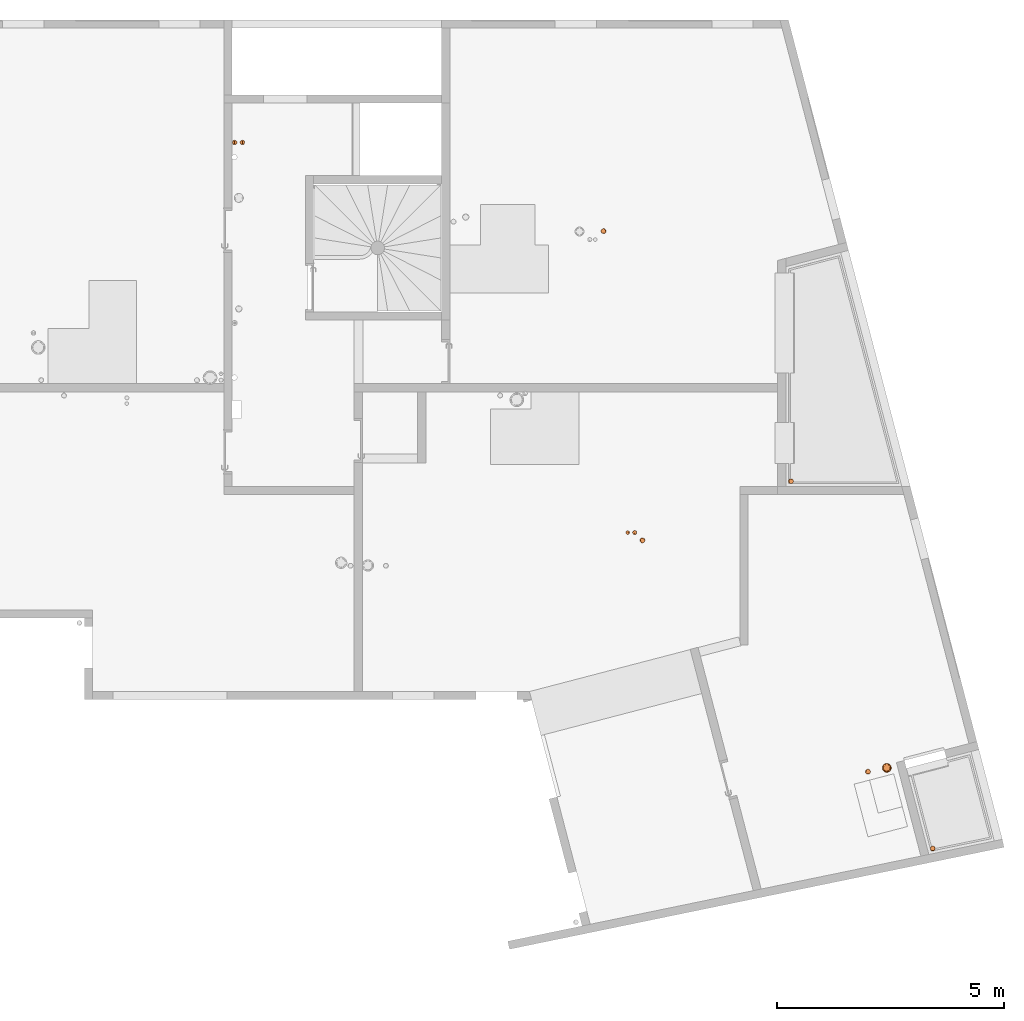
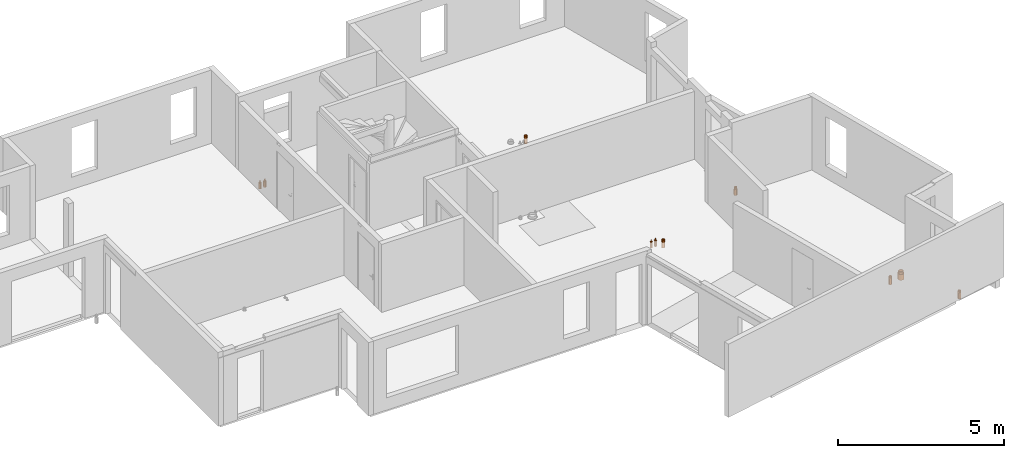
# One storey, part 29 of 30: 10 proxies.
"""IFC2X3 building model written with IfcOpenShell, lengths in centimetres."""

import ifcopenshell
import ifcopenshell.guid

model = None  # the IFC model being written
_history = None  # IfcOwnerHistory: only IFC2X3 demands one
_inside = {}  # id of a spatial element -> (the spatial element, [elements in it])
_under = {}  # id of a project, library or spatial element -> (it, [spatial elements below it])
_declared = {}  # id of a project -> (the project, [libraries it declares])
_typed = {}  # id of a type object -> (the type object, [elements of that type])
_made_of = {}  # id of a material, layer set ... -> (it, [elements and type objects made of it])


def new_model(schema):
    """Start an empty IFC model of exactly this schema.

    Asked for "IFC4X3", IfcOpenShell would pick the latest addendum, in which some entities
    have other attributes; the version numbers below select the first issue.
    IFC2X3 requires an IfcOwnerHistory on every rooted entity: one is made here for all.
    """
    global model, _history
    if schema == "IFC4X3":
        model = ifcopenshell.file(schema_version=(4, 3, 0, 0))
    else:
        model = ifcopenshell.file(schema=schema)
    _inside.clear()
    _under.clear()
    _declared.clear()
    _typed.clear()
    _made_of.clear()
    _history = None
    if model.schema == "IFC2X3":
        org = make("IfcOrganization", Name="unknown")
        user = make(
            "IfcPersonAndOrganization",
            ThePerson=make("IfcPerson", FamilyName="unknown"),
            TheOrganization=org,
        )
        app = make(
            "IfcApplication",
            ApplicationDeveloper=org,
            Version="unknown",
            ApplicationFullName="unknown",
            ApplicationIdentifier="unknown",
        )
        _history = make(
            "IfcOwnerHistory",
            OwningUser=user,
            OwningApplication=app,
            ChangeAction="ADDED",
            CreationDate=0,
        )
    return model


def make(cls, **values):
    """One entity of the class cls with the attributes given. An attribute that is None is left unset."""
    return model.create_entity(
        cls, **{name: value for name, value in values.items() if value is not None}
    )


def entity(cls, *values):
    """Any entity or typed value of the class cls, its attributes in the order of the schema. None: left unset."""
    e = model.create_entity(cls)
    for i, value in enumerate(values):
        if value is not None:
            e[i] = value
    return e


def rooted(cls, **values):
    """An entity with a GlobalId (a new one), such as an element, a storey or a relation."""
    return make(cls, GlobalId=ifcopenshell.guid.new(), OwnerHistory=_history, **values)


def si_unit(unit_type, name, prefix=None):
    """IfcSIUnit, for example si_unit("LENGTHUNIT", "METRE", prefix="MILLI")."""
    return make("IfcSIUnit", UnitType=unit_type, Prefix=prefix, Name=name)


def converted_unit(unit_type, name, factor, base, dimensions=None, offset=None):
    """IfcConversionBasedUnit, such as the inch: factor (a typed value) times the base unit."""
    return make(
        "IfcConversionBasedUnit"
        if offset is None
        else "IfcConversionBasedUnitWithOffset",
        ConversionOffset=offset,
        Dimensions=None
        if dimensions is None
        else entity("IfcDimensionalExponents", *dimensions),
        UnitType=unit_type,
        Name=name,
        ConversionFactor=make(
            "IfcMeasureWithUnit", ValueComponent=factor, UnitComponent=base
        ),
    )


def derived_unit(unit_type, elements):
    """IfcDerivedUnit: a product of units, each with its exponent."""
    return make(
        "IfcDerivedUnit",
        Elements=[
            make("IfcDerivedUnitElement", Unit=unit, Exponent=power)
            for unit, power in elements
        ],
        UnitType=unit_type,
    )


def assignment(units):
    """IfcUnitAssignment: the units of a project."""
    return None if units is None else make("IfcUnitAssignment", Units=units)


def point(xyz):
    """IfcCartesianPoint."""
    return None if xyz is None else make("IfcCartesianPoint", Coordinates=xyz)


def direction(xyz):
    """IfcDirection."""
    return None if xyz is None else make("IfcDirection", DirectionRatios=xyz)


def frame(location, z_axis=None, x_axis=None):
    """IfcAxis2Placement3D, a coordinate frame: its origin and axes. An axis left out is left unset."""
    return make(
        "IfcAxis2Placement3D",
        Location=point(location),
        Axis=direction(z_axis),
        RefDirection=direction(x_axis),
    )


def frame_2d(location, x_axis=None):
    """IfcAxis2Placement2D, a coordinate frame in the plane: its origin and x axis."""
    return make(
        "IfcAxis2Placement2D", Location=point(location), RefDirection=direction(x_axis)
    )


def origin():
    """The frame at (0, 0, 0) with its axes left unset."""
    return frame((0.0, 0.0, 0.0))


def place(relative_to, where):
    """IfcLocalPlacement: puts the frame where relative to a parent placement (None: the world)."""
    return make(
        "IfcLocalPlacement", PlacementRelTo=relative_to, RelativePlacement=where
    )


def context(
    kind, dimensions, precision=None, world=None, true_north=None, identifier=None
):
    """IfcGeometricRepresentationContext, for example the 3D "Model" context."""
    return make(
        "IfcGeometricRepresentationContext",
        ContextIdentifier=identifier,
        ContextType=kind,
        CoordinateSpaceDimension=dimensions,
        Precision=precision,
        WorldCoordinateSystem=world,
        TrueNorth=true_north,
    )


def subcontext(parent, identifier, kind, view, scale=None):
    """IfcGeometricRepresentationSubContext, for example "Body" below "Model"."""
    return make(
        "IfcGeometricRepresentationSubContext",
        ContextIdentifier=identifier,
        ContextType=kind,
        ParentContext=parent,
        TargetScale=scale,
        TargetView=view,
    )


def project(units=None, contexts=None):
    """IfcProject with its units and contexts."""
    return rooted(
        "IfcProject",
        Name="project",
        RepresentationContexts=contexts,
        UnitsInContext=assignment(units),
    )


def spatial(cls, under=None, at=None, **own):
    """A site, building, storey or space (cls), placed at a placement, below another one or the project."""
    s = rooted(cls, ObjectPlacement=at, **own)
    if under is not None:
        _under.setdefault(under.id(), (under, []))[1].append(s)
    return s


def profile(cls, at=None, kind="AREA", **sizes):
    """A parametric profile (cls). Its sizes go by their IFC names, for example OverallWidth=200.0."""
    return make(cls, ProfileType=kind, Position=at, **sizes)


def circle(**sizes):
    """IfcCircleProfileDef."""
    return profile("IfcCircleProfileDef", **sizes)


def hollow_circle(**sizes):
    """IfcCircleHollowProfileDef."""
    return profile("IfcCircleHollowProfileDef", **sizes)


def extrude(swept, where, along, depth):
    """IfcExtrudedAreaSolid: the profile swept, set in the frame where, extruded along a direction by depth."""
    return make(
        "IfcExtrudedAreaSolid",
        SweptArea=swept,
        Position=where,
        ExtrudedDirection=direction(along),
        Depth=depth,
    )


def shape(context_of_items, identifier, shape_type, items):
    """IfcShapeRepresentation: the items that make up one representation, for example the "Body"."""
    return make(
        "IfcShapeRepresentation",
        ContextOfItems=context_of_items,
        RepresentationIdentifier=identifier,
        RepresentationType=shape_type,
        Items=items,
    )


def source(mapping_origin, context_of_items, identifier, shape_type, items):
    """IfcRepresentationMap: a shape defined once, which mapped items show again and again."""
    return make(
        "IfcRepresentationMap",
        MappingOrigin=mapping_origin,
        MappedRepresentation=shape(context_of_items, identifier, shape_type, items),
    )


def transform(
    local_origin,
    x_axis=None,
    y_axis=None,
    z_axis=None,
    scale=None,
    scale2=None,
    scale3=None,
    uniform=True,
):
    """IfcCartesianTransformationOperator3D, or its non-uniform kind. x_axis, y_axis, z_axis: its Axis1, 2, 3."""
    if uniform:
        return make(
            "IfcCartesianTransformationOperator3D",
            Axis1=direction(x_axis),
            Axis2=direction(y_axis),
            LocalOrigin=point(local_origin),
            Scale=scale,
            Axis3=direction(z_axis),
        )
    return make(
        "IfcCartesianTransformationOperator3DnonUniform",
        Axis1=direction(x_axis),
        Axis2=direction(y_axis),
        LocalOrigin=point(local_origin),
        Scale=scale,
        Axis3=direction(z_axis),
        Scale2=scale2,
        Scale3=scale3,
    )


def mapped(mapping_source, mapping_target):
    """IfcMappedItem: shows the shape of a source again, moved by a transform."""
    return make(
        "IfcMappedItem", MappingSource=mapping_source, MappingTarget=mapping_target
    )


def material(Name=None, Category=None):
    """IfcMaterial."""
    return make("IfcMaterial", Name=Name, Category=Category)


def made_of(thing, what):
    """Note that an element or type object is made of a material, layer set ...; save() writes the relation."""
    if what is not None:
        _made_of.setdefault(what.id(), (what, []))[1].append(thing)
    return thing


def type_object(cls, material=None, **own):
    """A type object (cls), such as IfcWallType, which elements share."""
    return made_of(rooted(cls, **own), material)


def type_shapes(of_type, sources):
    """Give a type object the sources (RepresentationMaps) that its elements show as mapped items."""
    of_type.RepresentationMaps = sources


def element(
    cls,
    number,
    at=None,
    inside=None,
    cuts=None,
    type_object=None,
    material=None,
    context=None,
    identifier="Body",
    shape_type=None,
    held_by="IfcProductDefinitionShape",
    body=None,
    shapes=None,
    **own,
):
    """One element of the class cls, such as IfcWall. Its Tag is "e" and its number.

    at: its placement. inside: the storey or other place that contains it. cuts: it is an
    opening in that element (IfcRelVoidsElement). A single representation is given by context,
    identifier, shape_type and body (its items); several are given by shapes. held_by: the class
    of the entity that holds the representations. save() writes the other relations.
    """
    e = rooted(cls, Tag="e%d" % number, ObjectPlacement=at, **own)
    if body is not None:
        shapes = [shape(context, identifier, shape_type, body)]
    if shapes is not None:
        e.Representation = make(held_by, Representations=shapes)
    if inside is not None:
        _inside.setdefault(inside.id(), (inside, []))[1].append(e)
    if cuts is not None:
        rooted(
            "IfcRelVoidsElement", RelatingBuildingElement=cuts, RelatedOpeningElement=e
        )
    if type_object is not None:
        _typed.setdefault(type_object.id(), (type_object, []))[1].append(e)
    return made_of(e, material)


def aggregate(whole, parts):
    """IfcRelAggregates: a whole, such as a stair, and the parts it consists of."""
    return rooted("IfcRelAggregates", RelatingObject=whole, RelatedObjects=parts)


def save(model, path):
    """Write the relations noted so far, then the file.

    IfcRelAggregates (storeys below a building ...), IfcRelContainedInSpatialStructure (elements
    in a storey), IfcRelDefinesByType, IfcRelAssociatesMaterial and IfcRelDeclares: one each for
    every whole, place, type object, material and project.
    """
    for whole, parts in _under.values():
        aggregate(whole, parts)
    for where, things in _inside.values():
        rooted(
            "IfcRelContainedInSpatialStructure",
            RelatedElements=things,
            RelatingStructure=where,
        )
    for kind, things in _typed.values():
        rooted("IfcRelDefinesByType", RelatedObjects=things, RelatingType=kind)
    for what, things in _made_of.values():
        rooted("IfcRelAssociatesMaterial", RelatedObjects=things, RelatingMaterial=what)
    for by, libraries in _declared.values():
        rooted("IfcRelDeclares", RelatingContext=by, RelatedDefinitions=libraries)
    model.write(path)


model = new_model("IFC2X3")

# Units and contexts
model_context = context("Model", 3, precision=0.001, world=origin(), true_north=direction((6.12303176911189e-17, 1.0)))
body_context = subcontext(model_context, "Body", "Model", "MODEL_VIEW")
ifc_project = project(units=[si_unit("LENGTHUNIT", "METRE", prefix="CENTI"), si_unit("AREAUNIT", "SQUARE_METRE"), si_unit("VOLUMEUNIT", "CUBIC_METRE"), converted_unit("PLANEANGLEUNIT", "DEGREE", entity("IfcRatioMeasure", 0.0174532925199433), si_unit("PLANEANGLEUNIT", "RADIAN"), dimensions=[0, 0, 0, 0, 0, 0, 0]), si_unit("MASSUNIT", "GRAM", prefix="KILO"), derived_unit("MASSDENSITYUNIT", [(si_unit("MASSUNIT", "GRAM", prefix="KILO"), 1), (si_unit("LENGTHUNIT", "METRE"), -3)]), si_unit("TIMEUNIT", "SECOND"), si_unit("FREQUENCYUNIT", "HERTZ"), si_unit("THERMODYNAMICTEMPERATUREUNIT", "DEGREE_CELSIUS"), derived_unit("THERMALTRANSMITTANCEUNIT", [(si_unit("MASSUNIT", "GRAM", prefix="KILO"), 1), (si_unit("THERMODYNAMICTEMPERATUREUNIT", "KELVIN"), -1), (si_unit("TIMEUNIT", "SECOND"), -3)]), derived_unit("VOLUMETRICFLOWRATEUNIT", [(si_unit("LENGTHUNIT", "METRE"), 3), (si_unit("TIMEUNIT", "SECOND"), -1)]), si_unit("ELECTRICCURRENTUNIT", "AMPERE"), si_unit("ELECTRICVOLTAGEUNIT", "VOLT"), si_unit("POWERUNIT", "WATT"), si_unit("FORCEUNIT", "NEWTON"), si_unit("ILLUMINANCEUNIT", "LUX"), si_unit("LUMINOUSFLUXUNIT", "LUMEN"), si_unit("LUMINOUSINTENSITYUNIT", "CANDELA"), derived_unit("USERDEFINED", [(si_unit("MASSUNIT", "GRAM", prefix="KILO"), -1), (si_unit("LENGTHUNIT", "METRE"), -2), (si_unit("TIMEUNIT", "SECOND"), 3), (si_unit("LUMINOUSFLUXUNIT", "LUMEN"), 1)]), derived_unit("LINEARVELOCITYUNIT", [(si_unit("LENGTHUNIT", "METRE"), 1), (si_unit("TIMEUNIT", "SECOND"), -1)]), si_unit("PRESSUREUNIT", "PASCAL"), derived_unit("USERDEFINED", [(si_unit("LENGTHUNIT", "METRE"), -2), (si_unit("MASSUNIT", "GRAM", prefix="KILO"), 1), (si_unit("TIMEUNIT", "SECOND"), -2)])], contexts=[model_context])

# Site, building, storey
site_placement = place(None, origin())
site = spatial("IfcSite", under=ifc_project, at=site_placement, Name="Default", CompositionType="ELEMENT")
building_placement = place(site_placement, origin())
building = spatial("IfcBuilding", under=site, at=building_placement, Name="CAGE 03", CompositionType="ELEMENT")
storey_placement = place(building_placement, frame((0.0, 0.0, 610.0)))
storey = spatial("IfcBuildingStorey", under=building, at=storey_placement, Name="R+2", CompositionType="ELEMENT", Elevation=610.0)

# Proxies
ifc_material_1 = material(Name="Conduit EU")
building_element_proxy_type_1 = type_object("IfcBuildingElementProxyType", Name="CFO125 P110", PredefinedType="NOTDEFINED", material=ifc_material_1)
shared_shape_1 = source(origin(), body_context, "Body", "SweptSolid", [
    extrude(circle(Radius=5.5, at=frame_2d((0.0, -8.88549515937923e-15), x_axis=(1.0, 0.0))), frame((0.0, 0.0, -21.0)), (0.0, 0.0, 1.0), 21.0),
    extrude(hollow_circle(Radius=5.0, WallThickness=0.25, at=frame_2d((0.0, -8.07772287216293e-15), x_axis=(1.0, 0.0))), frame((0.0, 0.0, -21.0)), (0.0, 0.0, 1.0), 28.5),
])
type_shapes(building_element_proxy_type_1, [shared_shape_1])
proxy_1_placement = place(storey_placement, frame((10846.7782618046, 4828.73323198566, -4.46999646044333e-07)))
element("IfcBuildingElementProxy", 1, at=proxy_1_placement, inside=storey, type_object=building_element_proxy_type_1, material=ifc_material_1, Name="Galette - Résa - PVC1:CFO125 P110", ObjectType="CFO125 P110", context=body_context, shape_type="MappedRepresentation", body=[
    mapped(shared_shape_1, transform((0.0, 0.0, 0.0), scale=1.0)),
])
proxy_2_placement = place(storey_placement, frame((11428.9637022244, 3638.21161603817, -4.46999646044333e-07), z_axis=(0.0, 0.0, 1.0), x_axis=(0.96754998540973, 0.252679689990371, 0.0)))
element("IfcBuildingElementProxy", 2, at=proxy_2_placement, inside=storey, type_object=building_element_proxy_type_1, material=ifc_material_1, Name="Galette - Résa - PVC1:CFO125 P110", ObjectType="CFO125 P110", context=body_context, shape_type="MappedRepresentation", body=[
    mapped(shared_shape_1, transform((0.0, 0.0, 0.0), scale=1.0)),
])
proxy_3_placement = place(storey_placement, frame((10932.3241224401, 4147.61794280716, -4.46999646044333e-07)))
element("IfcBuildingElementProxy", 3, at=proxy_3_placement, inside=storey, type_object=building_element_proxy_type_1, material=ifc_material_1, Name="Galette - Résa - PVC1:CFO125 P110", ObjectType="CFO125 P110", context=body_context, shape_type="MappedRepresentation", body=[
    mapped(shared_shape_1, transform((0.0, 0.0, 0.0), scale=1.0)),
])
ifc_material_2 = material(Name="Conduit EP")
building_element_proxy_type_2 = type_object("IfcBuildingElementProxyType", Name="EP 101", PredefinedType="NOTDEFINED", material=ifc_material_2)
shared_shape_2 = source(origin(), body_context, "Body", "SweptSolid", [
    extrude(circle(Radius=5.5, at=frame_2d((0.0, -8.88549515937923e-15), x_axis=(1.0, 0.0))), frame((0.0, 0.0, -21.0)), (0.0, 0.0, 1.0), 21.0),
    extrude(hollow_circle(Radius=5.0, WallThickness=0.25, at=frame_2d((0.0, -8.07772287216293e-15), x_axis=(1.0, 0.0))), frame((0.0, 0.0, -21.0)), (0.0, 0.0, 1.0), 28.5),
])
type_shapes(building_element_proxy_type_2, [shared_shape_2])
for number, where, name in (
    (4, (11259.4519491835, 4277.82138926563, -4.46999646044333e-07), "Galette - Résa - PVC1:EP 101"),
    (5, (11571.7650134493, 3468.87960442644, -4.46999646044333e-07), "Galette - Résa - PVC1:EP 101"),
):
    element("IfcBuildingElementProxy", number, at=place(storey_placement, frame(where)), inside=storey, type_object=building_element_proxy_type_2, material=ifc_material_2, Name=name, ObjectType="EP 101", context=body_context, shape_type="MappedRepresentation", body=[
        mapped(shared_shape_2, transform((0.0, 0.0, 0.0), scale=1.0)),
    ])
ifc_material_3 = material(Name="Circuit ECS Aller")
building_element_proxy_type_3 = type_object("IfcBuildingElementProxyType", Name="CFO100 P90", PredefinedType="NOTDEFINED", material=ifc_material_3)
shared_shape_3 = source(origin(), body_context, "Body", "SweptSolid", [
    extrude(circle(Radius=4.5, at=frame_2d((0.0, -7.26995058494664e-15), x_axis=(1.0, 0.0))), frame((0.0, 0.0, -21.0)), (0.0, 0.0, 1.0), 21.0),
    extrude(hollow_circle(Radius=1.6, WallThickness=0.05, at=frame_2d((0.0, -2.58487131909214e-15), x_axis=(1.0, 0.0))), frame((0.0, 0.0, -21.0)), (0.0, 0.0, 1.0), 28.5),
])
type_shapes(building_element_proxy_type_3, [shared_shape_3])
proxy_4_placement = place(storey_placement, frame((10915.4442397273, 4164.87525516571, -4.46999646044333e-07)))
element("IfcBuildingElementProxy", 6, at=proxy_4_placement, inside=storey, type_object=building_element_proxy_type_3, material=ifc_material_3, Name="Galette - Résa - PVC1:CFO100 P90", ObjectType="CFO100 P90", context=body_context, shape_type="MappedRepresentation", body=[
    mapped(shared_shape_3, transform((0.0, 0.0, 0.0), scale=1.0)),
])
ifc_material_4 = material(Name="Circuit ECS Retour")
building_element_proxy_type_4 = type_object("IfcBuildingElementProxyType", Name="CFO100 P80", PredefinedType="NOTDEFINED", material=ifc_material_4)
shared_shape_4 = source(origin(), body_context, "Body", "SweptSolid", [
    extrude(circle(Radius=4.0, at=frame_2d((0.0, -6.46217829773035e-15), x_axis=(1.0, 0.0))), frame((0.0, 0.0, -21.0)), (0.0, 0.0, 1.0), 21.0),
    extrude(hollow_circle(Radius=1.0, WallThickness=0.0500000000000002, at=frame_2d((0.0, -1.61554457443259e-15), x_axis=(1.0, 0.0))), frame((0.0, 0.0, -21.0)), (0.0, 0.0, 1.0), 28.5),
])
type_shapes(building_element_proxy_type_4, [shared_shape_4])
proxy_5_placement = place(storey_placement, frame((10900.3160166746, 4164.87525516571, -4.46999646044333e-07)))
element("IfcBuildingElementProxy", 7, at=proxy_5_placement, inside=storey, type_object=building_element_proxy_type_4, material=ifc_material_4, Name="Galette - Résa - PVC1:CFO100 P80", ObjectType="CFO100 P80", context=body_context, shape_type="MappedRepresentation", body=[
    mapped(shared_shape_4, transform((0.0, 0.0, 0.0), scale=1.0)),
])
ifc_material_5 = material(Name="Circuit CHF Aller")
building_element_proxy_type_5 = type_object("IfcBuildingElementProxyType", Name="CHF Aller 41", PredefinedType="NOTDEFINED", material=ifc_material_5)
shared_shape_5 = source(origin(), body_context, "Body", "SweptSolid", [
    extrude(circle(Radius=5.0, at=frame_2d((0.0, -8.07772287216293e-15), x_axis=(1.0, 0.0))), frame((0.0, 0.0, -21.0)), (0.0, 0.0, 1.0), 21.0),
    extrude(hollow_circle(Radius=2.0, WallThickness=0.4, at=frame_2d((0.0, -3.23108914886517e-15), x_axis=(1.0, 0.0))), frame((0.0, 0.0, -21.0)), (0.0, 0.0, 1.0), 28.5),
])
type_shapes(building_element_proxy_type_5, [shared_shape_5])
proxy_6_placement = place(storey_placement, frame((10034.3670007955, 5023.89084226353, -4.46999646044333e-07)))
element("IfcBuildingElementProxy", 8, at=proxy_6_placement, inside=storey, type_object=building_element_proxy_type_5, material=ifc_material_5, Name="Galette - Résa - PVC1:CHF Aller 41", ObjectType="CHF Aller 41", context=body_context, shape_type="MappedRepresentation", body=[
    mapped(shared_shape_5, transform((0.0, 0.0, 0.0), scale=1.0)),
])
ifc_material_6 = material(Name="Circuit CHF Retour")
building_element_proxy_type_6 = type_object("IfcBuildingElementProxyType", Name="CHF Retour 43", PredefinedType="NOTDEFINED", material=ifc_material_6)
shared_shape_6 = source(origin(), body_context, "Body", "SweptSolid", [
    extrude(circle(Radius=5.0, at=frame_2d((0.0, -8.07772287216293e-15), x_axis=(1.0, 0.0))), frame((0.0, 0.0, -21.0)), (0.0, 0.0, 1.0), 21.0),
    extrude(hollow_circle(Radius=2.0, WallThickness=0.4, at=frame_2d((0.0, -3.23108914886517e-15), x_axis=(1.0, 0.0))), frame((0.0, 0.0, -21.0)), (0.0, 0.0, 1.0), 28.5),
])
type_shapes(building_element_proxy_type_6, [shared_shape_6])
proxy_7_placement = place(storey_placement, frame((10051.3670007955, 5023.89084226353, -4.46999646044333e-07)))
element("IfcBuildingElementProxy", 9, at=proxy_7_placement, inside=storey, type_object=building_element_proxy_type_6, material=ifc_material_6, Name="Galette - Résa - PVC1:CHF Retour 43", ObjectType="CHF Retour 43", context=body_context, shape_type="MappedRepresentation", body=[
    mapped(shared_shape_6, transform((0.0, 0.0, 0.0), scale=1.0)),
])
ifc_material_7 = material(Name="Conduit VMC")
building_element_proxy_type_7 = type_object("IfcBuildingElementProxyType", Name="CFO200 P170", PredefinedType="NOTDEFINED", material=ifc_material_7)
shared_shape_7 = source(origin(), body_context, "Body", "SweptSolid", [
    extrude(circle(Radius=10.0, at=frame_2d((0.0, -1.61554457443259e-14), x_axis=(1.0, 0.0))), frame((0.0, 0.0, -21.0)), (0.0, 0.0, 1.0), 21.0),
    extrude(hollow_circle(Radius=8.0, WallThickness=0.500000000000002, at=frame_2d((0.0, -1.29243565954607e-14), x_axis=(1.0, 0.0))), frame((0.0, 0.0, -21.0)), (0.0, 0.0, 1.0), 28.5),
])
type_shapes(building_element_proxy_type_7, [shared_shape_7])
proxy_8_placement = place(storey_placement, frame((11470.6360049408, 3646.5871587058, -4.46999646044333e-07), z_axis=(0.0, 0.0, 1.0), x_axis=(0.96754998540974, 0.252679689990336, 0.0)))
element("IfcBuildingElementProxy", 10, at=proxy_8_placement, inside=storey, type_object=building_element_proxy_type_7, material=ifc_material_7, Name="Galette - Résa - PVC1:CFO200 P170", ObjectType="CFO200 P170", context=body_context, shape_type="MappedRepresentation", body=[
    mapped(shared_shape_7, transform((0.0, 0.0, 0.0), scale=1.0)),
])

save(model, "model.ifc")
